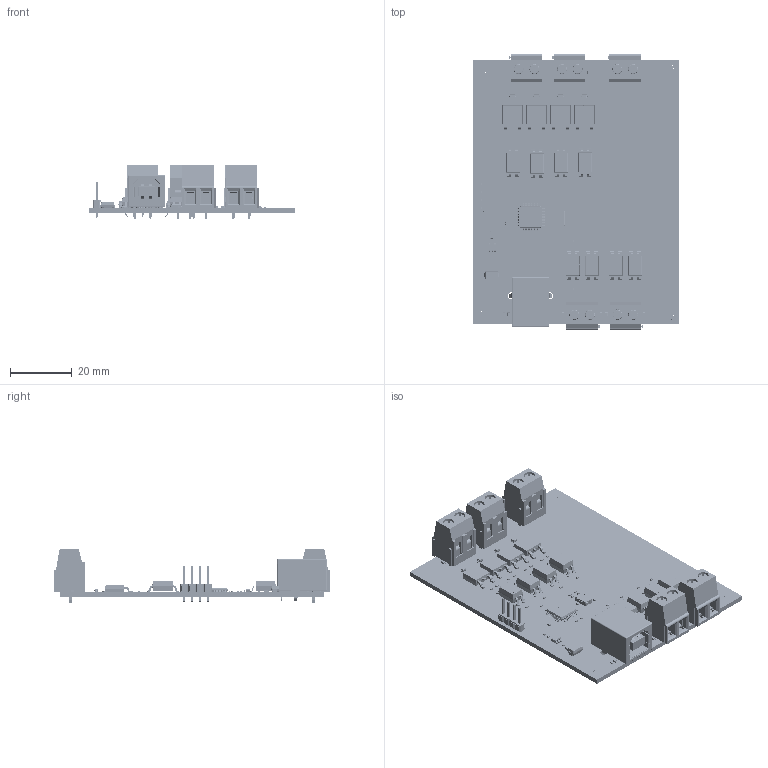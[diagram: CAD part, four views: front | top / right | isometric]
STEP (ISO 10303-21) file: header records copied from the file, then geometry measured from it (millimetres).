
FILE_DESCRIPTION(('Designed by EasyEDA Pro'),'2;1');
FILE_NAME('Open CASCADE Shape Model','2025-11-11T08:09:47',('Author'),( 'Open CASCADE'),'Open CASCADE STEP processor 7.8','Open CASCADE 7.8' ,'Unknown');
FILE_SCHEMA(('AUTOMOTIVE_DESIGN { 1 0 10303 214 1 1 1 1 }'));
Length unit declared in the file: millimetre
Products named in the file (36): EasyEDA PCB Model~EoVF; Board~EoVF; TopCopper~EoVF; BottomCopper~EoVF; TopFpcStiffener~EoVF; BottomFpcStiffener~EoVF; LED10~LED0603-RD~LED0603-RD~EoVF; LED0603-RD~LED0603-RD~EoVF; X1~CRYSTAL-SMD_L5.0-W3.2~CRYSTAL-SMD_L5.0-W3.2~EoVF; CRYSTAL-SMD_L5.0-W3.2~CRYSTAL-SMD_L5.0-W3.2~EoVF; R6~R0402~R0402_L1.0-W0.5-H0.5~EoVF; R0402~R0402_L1.0-W0.5-H0.5~EoVF; U4~F0805~F0805_L2.1-W1.4-H0.8~EoVF; F0805~F0805_L2.1-W1.4-H0.8~EoVF; Q1~TO-252-3_L6.6-W6.1-P4.57-LS9.9-BR~TO-252-3_
L6.6-W6.1-P4.57-LS9.9-BR~EoVF; TO-252-3_L6.6-W6.1-P4.57-LS9.9-BR~TO-252-3_
L6.6-W6.1-P4.57-LS9.9-BR~EoVF; H1~HDR-TH_4P-P2.54-V-M~HDR-TH_4P-P2.54-M-LI-1X4P~EoVF; HDR-TH_4P-P2.54-V-M~HDR-TH_4P-P2.54-M-LI-1X4P~EoVF; LED1~LED0603-RD_RED~LED0603-RD_RED~EoVF; LED0603-RD_RED~LED0603-RD_RED~EoVF; U5~OPTO-SMD-4_L4.6-W6.5-P2.54-LS10.3-TL~OPTO-SMD-4_
L4.6-W6.5-H3.6-LS10.2-P2.54~EoVF; OPTO-SMD-4_L4.6-W6.5-P2.54-LS10.3-TL~OPTO-SMD-4_
L4.6-W6.5-H3.6-LS10.2-P2.54~EoVF; C1~C0402_NEW~C0402_L1.0-W0.5-H0.5~EoVF; C0402~C0402_L1.0-W0.5-H0.5~EoVF; D3~SOD-323_L1.8-W1.3-LS2.5-RD~SOD-323_L1.7-W1.3-H1.1-LS2.5~EoVF; SOD-323_L1.8-W1.3-LS2.5-RD~SOD-323_L1.7-W1.3-H1.1-LS2.5~EoVF; D2~SMA_L4.3-W2.6-LS5.2-RD~SMA_L4.3-W2.6-LS5.2-RD~EoVF; SMA_L4.3-W2.6-LS5.2-RD~SMA_L4.3-W2.6-LS5.2-RD~EoVF; P3~CONN-TH_2P-P5.00_WJ500V-5.08-2P~CONN-TH_2P-P5.00_
WJ500V-5.08-2P~EoVF; CONN-TH_2P-P5.00_WJ500V-5.08-2P~CONN-TH_2P-P5.00_WJ500V-5.08-2P~EoVF; CN1~USB-B_TH_BF90~USB-B_TH_BF90~EoVF; USB-B_TH_BF90~USB-B_TH_BF90~EoVF; U3~SOT-23-5_L3.0-W1.7-P0.95-LS2.8-BR~SOT-23-5_
L2.9-W1.6-H1.1-LS2.8-P0.95~EoVF; SOT-23-5_L3.0-W1.7-P0.95-LS2.8-BR~SOT-23-5_
L2.9-W1.6-H1.1-LS2.8-P0.95~EoVF; U2~LQFP-48_L7.0-W7.0-P0.50-LS9.0-BL~LQFP-48_
L7.0-W7.0-H1.4-LS9.0-P0.50~EoVF; LQFP-48_L7.0-W7.0-P0.50-LS9.0-BL~LQFP-48_
L7.0-W7.0-H1.4-LS9.0-P0.50~EoVF
Assembly tree (101 placements, depth 3):
  EasyEDA PCB Model~EoVF
    Board~EoVF
    TopCopper~EoVF
    BottomCopper~EoVF
    TopFpcStiffener~EoVF
    BottomFpcStiffener~EoVF
    LED10~LED0603-RD~LED0603-RD~EoVF
      LED0603-RD~LED0603-RD~EoVF
    X1~CRYSTAL-SMD_L5.0-W3.2~CRYSTAL-SMD_L5.0-W3.2~EoVF
      CRYSTAL-SMD_L5.0-W3.2~CRYSTAL-SMD_L5.0-W3.2~EoVF
    R6~R0402~R0402_L1.0-W0.5-H0.5~EoVF  x32
      R0402~R0402_L1.0-W0.5-H0.5~EoVF
    U4~F0805~F0805_L2.1-W1.4-H0.8~EoVF
      F0805~F0805_L2.1-W1.4-H0.8~EoVF
    Q1~TO-252-3_L6.6-W6.1-P4.57-LS9.9-BR~TO-252-3_
L6.6-W6.1-P4.57-LS9.9-BR~EoVF  x4
      TO-252-3_L6.6-W6.1-P4.57-LS9.9-BR~TO-252-3_
L6.6-W6.1-P4.57-LS9.9-BR~EoVF
    H1~HDR-TH_4P-P2.54-V-M~HDR-TH_4P-P2.54-M-LI-1X4P~EoVF
      HDR-TH_4P-P2.54-V-M~HDR-TH_4P-P2.54-M-LI-1X4P~EoVF
    LED1~LED0603-RD_RED~LED0603-RD_RED~EoVF  x9
      LED0603-RD_RED~LED0603-RD_RED~EoVF
    U5~OPTO-SMD-4_L4.6-W6.5-P2.54-LS10.3-TL~OPTO-SMD-4_
L4.6-W6.5-H3.6-LS10.2-P2.54~EoVF  x8
      OPTO-SMD-4_L4.6-W6.5-P2.54-LS10.3-TL~OPTO-SMD-4_
L4.6-W6.5-H3.6-LS10.2-P2.54~EoVF
    C1~C0402_NEW~C0402_L1.0-W0.5-H0.5~EoVF  x11
      C0402~C0402_L1.0-W0.5-H0.5~EoVF
    D3~SOD-323_L1.8-W1.3-LS2.5-RD~SOD-323_L1.7-W1.3-H1.1-LS2.5~EoVF  x4
      SOD-323_L1.8-W1.3-LS2.5-RD~SOD-323_L1.7-W1.3-H1.1-LS2.5~EoVF
    D2~SMA_L4.3-W2.6-LS5.2-RD~SMA_L4.3-W2.6-LS5.2-RD~EoVF
      SMA_L4.3-W2.6-LS5.2-RD~SMA_L4.3-W2.6-LS5.2-RD~EoVF
    P3~CONN-TH_2P-P5.00_WJ500V-5.08-2P~CONN-TH_2P-P5.00_
WJ500V-5.08-2P~EoVF  x5
      CONN-TH_2P-P5.00_WJ500V-5.08-2P~CONN-TH_2P-P5.00_WJ500V-5.08-2P~EoVF
    CN1~USB-B_TH_BF90~USB-B_TH_BF90~EoVF
      USB-B_TH_BF90~USB-B_TH_BF90~EoVF
    U3~SOT-23-5_L3.0-W1.7-P0.95-LS2.8-BR~SOT-23-5_
L2.9-W1.6-H1.1-LS2.8-P0.95~EoVF
      SOT-23-5_L3.0-W1.7-P0.95-LS2.8-BR~SOT-23-5_
L2.9-W1.6-H1.1-LS2.8-P0.95~EoVF
    U2~LQFP-48_L7.0-W7.0-P0.50-LS9.0-BL~LQFP-48_
L7.0-W7.0-H1.4-LS9.0-P0.50~EoVF
      LQFP-48_L7.0-W7.0-P0.50-LS9.0-BL~LQFP-48_
L7.0-W7.0-H1.4-LS9.0-P0.50~EoVF
Bounding box: 66.37 x 89.49 x 17.5 mm (x, y, z)
Volume: 16589.7 mm3; surface area: 24674.7 mm2
Topology: 258 solids, 258 shells, 31673 faces, 82906 edges, 53015 vertices
Faces by surface type: plane 18048, bspline 8460, cylinder 3906, sphere 775, torus 484
Entity records: 334512 total; most frequent: CARTESIAN_POINT 74955, ORIENTED_EDGE 40946, DIRECTION 34575, EDGE_CURVE 20473, LINE 13465, VECTOR 13465, VERTEX_POINT 12671, AXIS2_PLACEMENT_3D 10555
